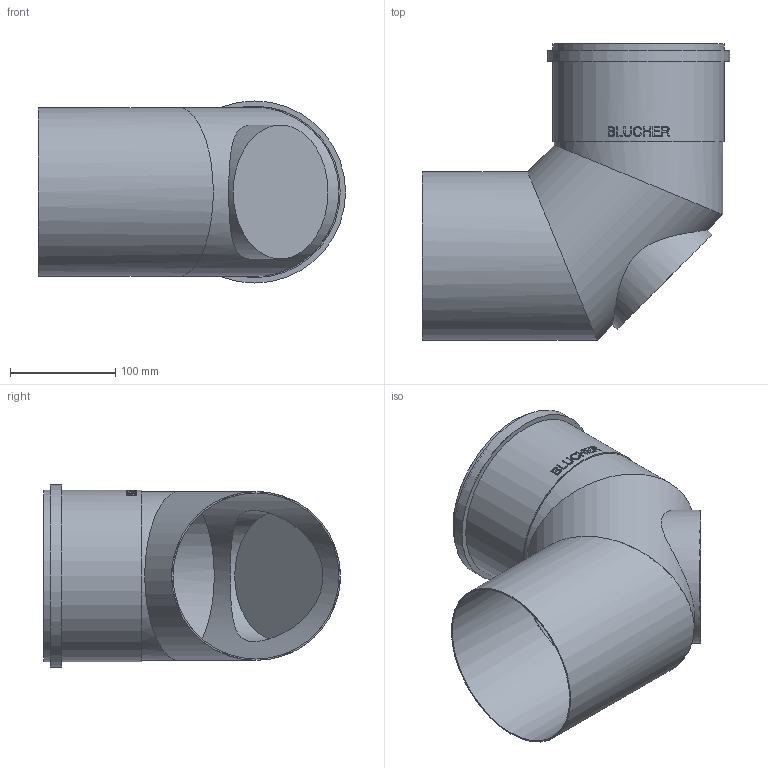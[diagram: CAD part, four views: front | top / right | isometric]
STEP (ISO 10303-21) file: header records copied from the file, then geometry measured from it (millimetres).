
FILE_DESCRIPTION((''),'2;1');
FILE_NAME('I:\WATTS\3D_CAD\3D_CAD_Models\Blucher_Drains\Fittings\Access Fittings\WebsiteFiles\3D\STEP\AB-6-316.stp','2009-12-18T15:25:18',('menesek'),(''),'Autodesk Inventor 2010','Autodesk Inventor 2010','');
FILE_SCHEMA(('AUTOMOTIVE_DESIGN { 1 0 10303 214 1 1 1 1 }'));
Length unit declared in the file: inch
Products named in the file (1): AB-6-316
Bounding box: 291.34 x 281.43 x 172.72 mm (x, y, z)
Volume: 248551.2 mm3; surface area: 392117.3 mm2
Topology: 1 solids, 1 shells, 122 faces, 312 edges, 210 vertices
Faces by surface type: plane 64, bspline 34, cylinder 24
Full cylindrical faces by diameter (mm): 124.46 x1, 127 x1, 157.48 x3, 160.02 x5, 162.56 x2, 170.18 x1, 172.72 x1
Entity records: 14527 total; most frequent: CARTESIAN_POINT 11885, ORIENTED_EDGE 584, DIRECTION 416, EDGE_CURVE 292, VERTEX_POINT 204, EDGE_LOOP 156, AXIS2_PLACEMENT_3D 150, FACE_OUTER_BOUND 122
